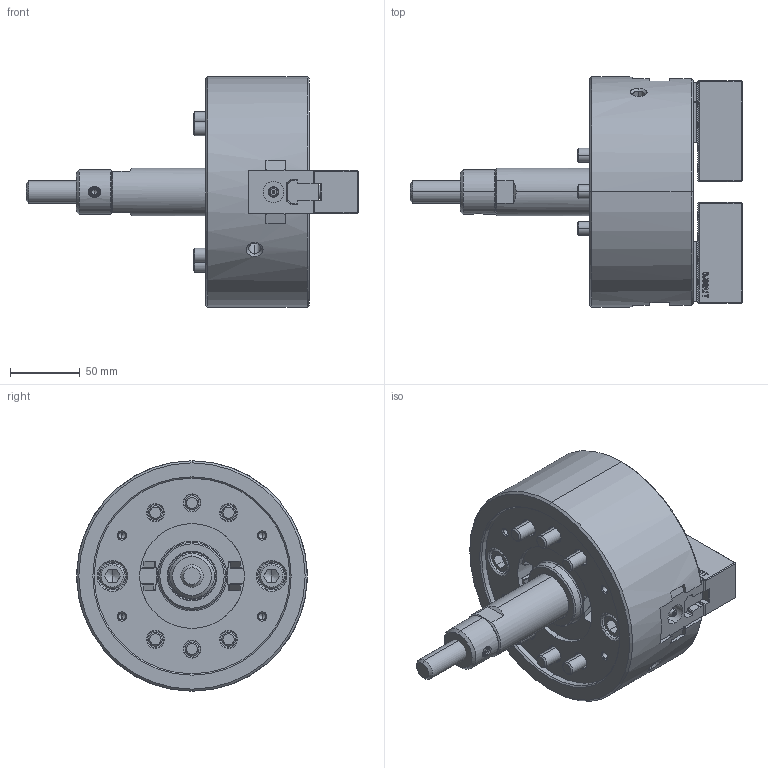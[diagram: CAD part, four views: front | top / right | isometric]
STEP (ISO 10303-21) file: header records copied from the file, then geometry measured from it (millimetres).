
FILE_DESCRIPTION (( 'STEP AP214' ), '1' );
FILE_NAME ('DT1_NLT06_OUTSIDE_VIEW_HOL.STEP', '2026-03-23T00:26:44', ( '' ), ( '' ), 'SwSTEP 2.0', 'SolidWorks 2022', '' );
FILE_SCHEMA (( 'AUTOMOTIVE_DESIGN' ));
Length unit declared in the file: millimetre
Products named in the file (11): Copy of P31410^DT1_NLT06; DT1_NLT06_DN^DT1_NLT06; DT1_NLT06_BASE^DT1_NLT06; DT1_NLT06_DRAWSCREW^DT1_NLT06; DT1_NLT06_M5x12^DT1_NLT06; DT1_NLT06_TNUT^DT1_NLT06; DT1_NLT06_OUTSIDE_VIEW_HOL; DT1_NLT06_SOFTJAW^DT1_NLT06; DT1_NLT06_COVER^DT1_NLT06; DT1_NLT06_M10x30^DT1_NLT06; DT1_NLT06_M10x70^DT1_NLT06
Assembly tree (23 placements, depth 2):
  DT1_NLT06_OUTSIDE_VIEW_HOL
    DT1_NLT06_SOFTJAW^DT1_NLT06  x2
    DT1_NLT06_TNUT^DT1_NLT06  x2
    DT1_NLT06_COVER^DT1_NLT06
    DT1_NLT06_DRAWSCREW^DT1_NLT06
    Copy of P31410^DT1_NLT06
    DT1_NLT06_DN^DT1_NLT06
    DT1_NLT06_BASE^DT1_NLT06
    DT1_NLT06_M10x70^DT1_NLT06  x6
    DT1_NLT06_M10x30^DT1_NLT06  x4
    DT1_NLT06_M5x12^DT1_NLT06  x4
Bounding box: 237.75 x 165 x 165 mm (x, y, z)
Volume: 1631154.7 mm3; surface area: 244560.1 mm2
Topology: 23 solids, 25 shells, 3267 faces, 9075 edges, 5902 vertices
Faces by surface type: plane 1841, cylinder 813, cone 331, bspline 236, torus 42, sphere 4
Entity records: 82882 total; most frequent: CARTESIAN_POINT 24950, ORIENTED_EDGE 13048, DIRECTION 10295, EDGE_CURVE 6524, VECTOR 4435, LINE 4435, VERTEX_POINT 4261, AXIS2_PLACEMENT_3D 2930
